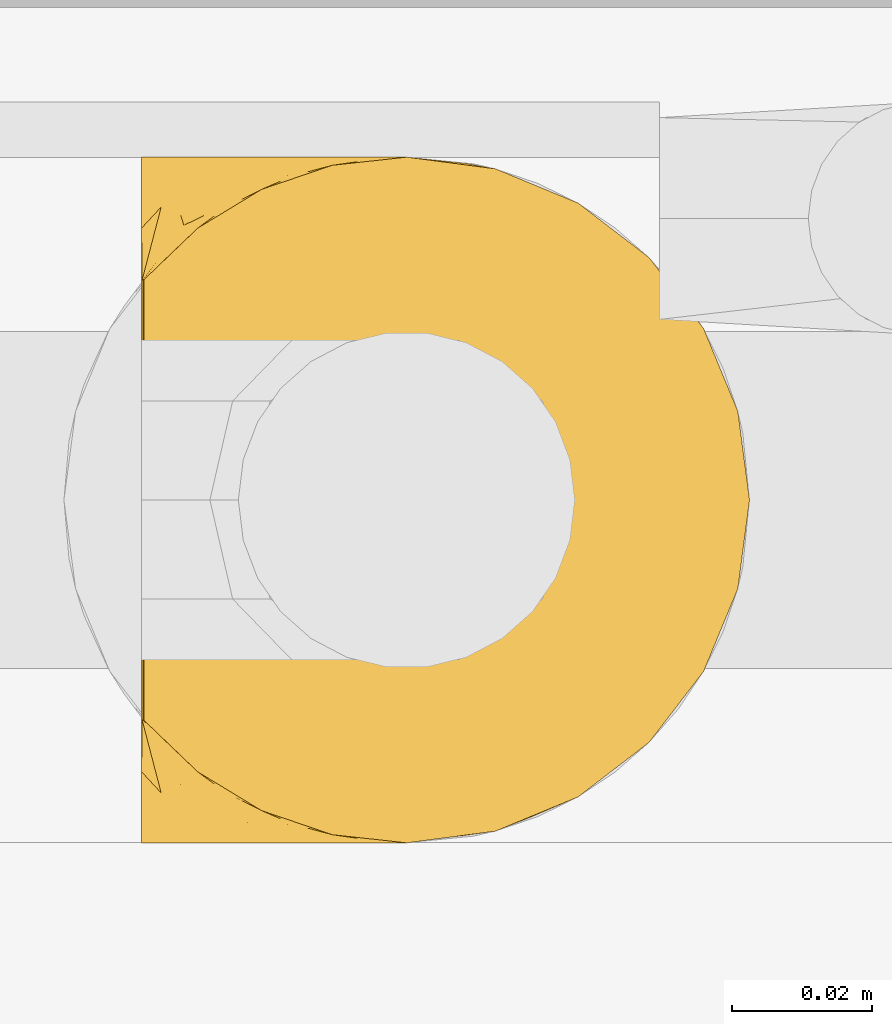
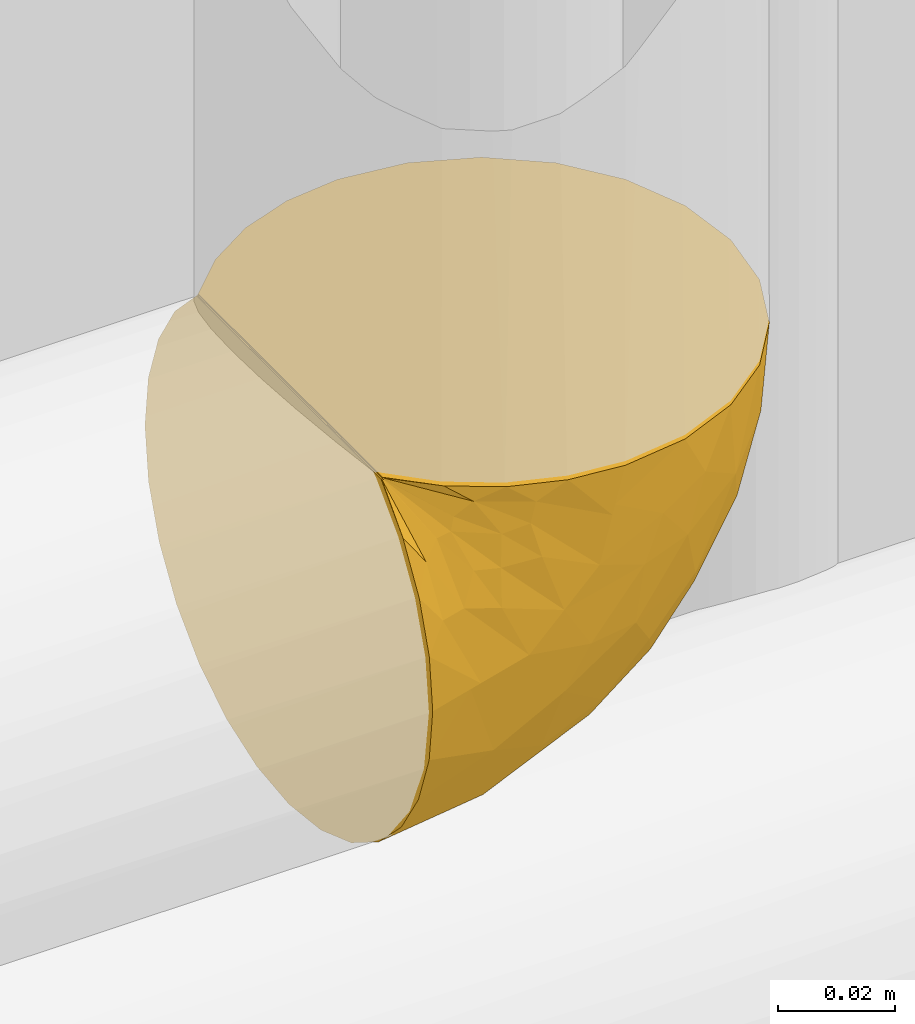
# One storey, part 60 of 94: 1 covering.
"""IFC2X3 building model written with IfcOpenShell, lengths in millimetres."""

from ifc_helpers import new_model, entity, si_unit, converted_unit, derived_unit, direction, frame, origin, place, context, subcontext, project, spatial, faceted_brep, material, element, save


model = new_model("IFC2X3")

# Units and contexts
model_context = context("Model", 3, precision=0.01, world=origin(), true_north=direction((6.123031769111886e-17, 1.0)))
body_context = subcontext(model_context, "Body", "Model", "MODEL_VIEW")
ifc_project = project(units=[si_unit("LENGTHUNIT", "METRE", prefix="MILLI"), si_unit("AREAUNIT", "SQUARE_METRE"), si_unit("VOLUMEUNIT", "CUBIC_METRE"), converted_unit("PLANEANGLEUNIT", "DEGREE", entity("IfcRatioMeasure", 0.017453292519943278), si_unit("PLANEANGLEUNIT", "RADIAN"), dimensions=[0, 0, 0, 0, 0, 0, 0]), si_unit("MASSUNIT", "GRAM", prefix="KILO"), derived_unit("MASSDENSITYUNIT", [(si_unit("MASSUNIT", "GRAM", prefix="KILO"), 1), (si_unit("LENGTHUNIT", "METRE"), -3)]), derived_unit("IONCONCENTRATIONUNIT", [(si_unit("MASSUNIT", "GRAM", prefix="KILO"), 1), (si_unit("LENGTHUNIT", "METRE"), -3)]), derived_unit("MOMENTOFINERTIAUNIT", [(si_unit("LENGTHUNIT", "METRE"), 4)]), si_unit("TIMEUNIT", "SECOND"), si_unit("FREQUENCYUNIT", "HERTZ"), si_unit("THERMODYNAMICTEMPERATUREUNIT", "DEGREE_CELSIUS"), derived_unit("THERMALTRANSMITTANCEUNIT", [(si_unit("MASSUNIT", "GRAM", prefix="KILO"), 1), (si_unit("THERMODYNAMICTEMPERATUREUNIT", "KELVIN"), -1), (si_unit("TIMEUNIT", "SECOND"), -3)]), derived_unit("THERMALCONDUCTANCEUNIT", [(si_unit("MASSUNIT", "GRAM", prefix="KILO"), 1), (si_unit("THERMODYNAMICTEMPERATUREUNIT", "KELVIN"), -1), (si_unit("TIMEUNIT", "SECOND"), -3), (si_unit("LENGTHUNIT", "METRE"), 1)]), derived_unit("VOLUMETRICFLOWRATEUNIT", [(si_unit("LENGTHUNIT", "METRE"), 3), (si_unit("TIMEUNIT", "SECOND"), -1)]), derived_unit("MASSFLOWRATEUNIT", [(si_unit("MASSUNIT", "GRAM", prefix="KILO"), 1), (si_unit("TIMEUNIT", "SECOND"), -1)]), derived_unit("ROTATIONALFREQUENCYUNIT", [(si_unit("TIMEUNIT", "SECOND"), -1)]), si_unit("ELECTRICCURRENTUNIT", "AMPERE"), si_unit("ELECTRICVOLTAGEUNIT", "VOLT"), si_unit("POWERUNIT", "WATT"), si_unit("FORCEUNIT", "NEWTON", prefix="KILO"), si_unit("ILLUMINANCEUNIT", "LUX"), si_unit("LUMINOUSFLUXUNIT", "LUMEN"), si_unit("LUMINOUSINTENSITYUNIT", "CANDELA"), derived_unit("USERDEFINED", [(si_unit("MASSUNIT", "GRAM", prefix="KILO"), -1), (si_unit("LENGTHUNIT", "METRE"), -2), (si_unit("TIMEUNIT", "SECOND"), 3), (si_unit("LUMINOUSFLUXUNIT", "LUMEN"), 1)]), derived_unit("USERDEFINED", [(si_unit("MASSUNIT", "GRAM", prefix="KILO"), 1), (si_unit("TIMEUNIT", "SECOND"), -3), (si_unit("LENGTHUNIT", "METRE"), 3), (si_unit("ELECTRICCURRENTUNIT", "AMPERE"), -2)]), derived_unit("SOUNDPOWERUNIT", [(si_unit("MASSUNIT", "GRAM", prefix="KILO"), 1), (si_unit("TIMEUNIT", "SECOND"), -3), (si_unit("LENGTHUNIT", "METRE"), 2)]), derived_unit("SOUNDPRESSUREUNIT", [(si_unit("MASSUNIT", "GRAM", prefix="KILO"), 1), (si_unit("LENGTHUNIT", "METRE"), -1), (si_unit("TIMEUNIT", "SECOND"), -2)]), derived_unit("LINEARVELOCITYUNIT", [(si_unit("LENGTHUNIT", "METRE"), 1), (si_unit("TIMEUNIT", "SECOND"), -1)]), si_unit("PRESSUREUNIT", "PASCAL"), derived_unit("USERDEFINED", [(si_unit("MASSUNIT", "GRAM", prefix="KILO"), 1), (si_unit("LENGTHUNIT", "METRE"), -2), (si_unit("TIMEUNIT", "SECOND"), -2)]), derived_unit("LINEARFORCEUNIT", [(si_unit("MASSUNIT", "GRAM", prefix="KILO"), 1), (si_unit("TIMEUNIT", "SECOND"), -2)]), derived_unit("PLANARFORCEUNIT", [(si_unit("MASSUNIT", "GRAM", prefix="KILO"), 1), (si_unit("LENGTHUNIT", "METRE"), -1), (si_unit("TIMEUNIT", "SECOND"), -2)]), derived_unit("SPECIFICHEATCAPACITYUNIT", [(si_unit("THERMODYNAMICTEMPERATUREUNIT", "KELVIN"), -1), (si_unit("LENGTHUNIT", "METRE"), 2), (si_unit("TIMEUNIT", "SECOND"), -2)]), derived_unit("HEATINGVALUEUNIT", [(si_unit("LENGTHUNIT", "METRE"), 2), (si_unit("TIMEUNIT", "SECOND"), -2)]), derived_unit("VAPORPERMEABILITYUNIT", [(si_unit("LENGTHUNIT", "METRE"), -1), (si_unit("TIMEUNIT", "SECOND"), 1)]), derived_unit("DYNAMICVISCOSITYUNIT", [(si_unit("MASSUNIT", "GRAM", prefix="KILO"), 1), (si_unit("TIMEUNIT", "SECOND"), -1), (si_unit("LENGTHUNIT", "METRE"), -1)]), derived_unit("THERMALEXPANSIONCOEFFICIENTUNIT", [(si_unit("THERMODYNAMICTEMPERATUREUNIT", "KELVIN"), -1)]), derived_unit("MODULUSOFELASTICITYUNIT", [(si_unit("MASSUNIT", "GRAM", prefix="KILO"), 1), (si_unit("LENGTHUNIT", "METRE"), -1), (si_unit("TIMEUNIT", "SECOND"), -2)]), derived_unit("ISOTHERMALMOISTURECAPACITYUNIT", [(si_unit("LENGTHUNIT", "METRE"), 3), (si_unit("MASSUNIT", "GRAM", prefix="KILO"), -1)]), derived_unit("MOISTUREDIFFUSIVITYUNIT", [(si_unit("TIMEUNIT", "SECOND"), -1), (si_unit("LENGTHUNIT", "METRE"), 2)])], contexts=[model_context])

# Site, building, storey
site_placement = place(None, origin())
site = spatial("IfcSite", under=ifc_project, at=site_placement, Name="Default", CompositionType="ELEMENT")
building_placement = place(site_placement, origin())
building = spatial("IfcBuilding", under=site, at=building_placement, CompositionType="ELEMENT")
storey_placement = place(building_placement, origin())
storey = spatial("IfcBuildingStorey", under=building, at=storey_placement, Name="Niveau 0", CompositionType="ELEMENT", Elevation=0.0)

# Covering
ifc_material = material(Name="Isolation - Laine minérale")
covering_placement = place(storey_placement, frame((-6048.767585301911, 9976.100352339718, 2499.2547277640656)))
element("IfcCovering", 1, at=covering_placement, inside=storey, material=ifc_material, Name="Isolation des canalisations:Laine minérale", ObjectType="Isolation des canalisations:Laine minérale", PredefinedType="INSULATION", context=body_context, shape_type="Brep", body=[
    faceted_brep([(1.5952722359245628, 95.02415814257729, 29.41213456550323), (1.5952722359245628, 89.1663101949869, 20.0932520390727), (1.5952722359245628, 81.38263886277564, 12.312548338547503), (1.5952722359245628, 72.06354573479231, 6.459227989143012), (1.5952722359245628, 61.67593083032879, 2.826140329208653), (1.5952722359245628, 50.74527223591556, 1.5952722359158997), (1.5952722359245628, 39.80290363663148, 2.828812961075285), (1.5952722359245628, 29.412134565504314, 6.466386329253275), (1.5952722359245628, 20.093252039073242, 12.324234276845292), (1.5952722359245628, 12.312548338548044, 20.10790560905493), (1.5952722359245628, 6.459227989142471, 29.426998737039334), (1.5952722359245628, 2.826140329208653, 39.814613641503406), (1.5952722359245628, 1.5952722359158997, 50.7452722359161), (1.5952722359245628, 2.765001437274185, 61.40435822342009), (1.5952722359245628, 6.216868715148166, 71.55257335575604), (1.5952722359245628, 11.785042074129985, 80.70896636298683), (1.5952722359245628, 19.19437336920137, 88.43165280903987), (1.5952722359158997, 21.638642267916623, 88.43165280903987), (1.5952722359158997, 23.415694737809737, 88.43165280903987), (1.5952722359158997, 25.192747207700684, 88.43165280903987), (1.5952722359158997, 26.692340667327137, 88.43165280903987), (1.5952722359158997, 28.191934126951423, 88.43165280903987), (1.5952722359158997, 31.1911210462, 88.43165280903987), (1.5952722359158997, 34.19030796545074, 88.43165280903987), (1.5952722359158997, 37.18949488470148, 88.43165280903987), (1.5952722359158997, 40.18868180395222, 88.43165280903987), (1.5952722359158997, 41.68827526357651, 88.43165280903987), (1.5952722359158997, 43.18786872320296, 88.43165280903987), (1.5952722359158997, 45.63213762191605, 88.43165280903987), (1.5952722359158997, 48.07640652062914, 88.43165280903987), (1.5952722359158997, 50.5206754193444, 88.43165280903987), (1.5952722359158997, 52.96494431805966, 88.43165280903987), (1.5952722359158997, 55.409213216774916, 88.43165280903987), (1.5952722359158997, 57.85348211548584, 88.43165280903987), (1.5952722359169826, 60.2977510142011, 88.43165280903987), (1.5952722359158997, 62.742019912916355, 88.43165280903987), (1.5952722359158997, 65.18628881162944, 88.43165280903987), (1.5952722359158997, 67.6305577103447, 88.43165280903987), (1.5952722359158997, 70.0748266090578, 88.43165280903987), (1.5952722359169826, 72.51909550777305, 88.43165280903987), (1.5952722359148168, 74.96336440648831, 88.43165280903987), (1.5952722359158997, 77.4076333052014, 88.43165280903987), (1.5952722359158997, 79.85190220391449, 88.43165280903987), (1.5952722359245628, 82.29617110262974, 88.43165280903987), (1.5952722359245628, 89.71827412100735, 80.69235262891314), (1.5952722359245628, 95.28368576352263, 71.53113811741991), (1.5952722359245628, 98.73008326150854, 61.38390047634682), (1.5952722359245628, 99.89527223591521, 50.74527223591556), (1.5952722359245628, 98.66173151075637, 39.80290363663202), (9.641963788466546, 11.777056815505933, 88.74527223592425), (18.798688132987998, 6.211862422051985, 88.74527223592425), (28.94385431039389, 2.7632985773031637, 88.74527223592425), (39.59527223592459, 1.5952722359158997, 88.74527223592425), (52.31622830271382, 3.270017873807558, 88.74527223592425), (64.17027223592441, 8.18012363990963, 88.74527223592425), (74.34957053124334, 15.990973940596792, 88.74527223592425), (82.16042083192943, 26.170272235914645, 88.74527223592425), (87.07052659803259, 38.02431616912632, 88.74527223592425), (88.74527223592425, 50.74527223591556, 88.74527223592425), (87.07052659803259, 63.46622830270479, 88.74527223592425), (82.16042083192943, 75.3202722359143, 88.74527223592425), (74.34957053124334, 85.49957053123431, 88.74527223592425), (64.17027223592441, 93.31042083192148, 88.74527223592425), (52.31622830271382, 98.22052659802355, 88.74527223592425), (39.59527223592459, 99.89527223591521, 88.74527223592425), (28.94385431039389, 98.72724589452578, 88.74527223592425), (18.798688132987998, 95.27868204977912, 88.74527223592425), (9.641963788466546, 89.71348765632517, 88.74527223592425), (1.908891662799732, 82.29617110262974, 88.74527223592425), (1.908891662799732, 79.85190220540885, 88.74527223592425), (1.908891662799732, 78.3523087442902, 88.74527223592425), (1.9088916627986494, 76.3803775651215, 88.74527223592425), (1.908891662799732, 74.40844638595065, 88.74527223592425), (1.908891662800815, 72.43651520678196, 88.74527223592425), (1.908891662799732, 70.46458402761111, 88.74527223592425), (1.908891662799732, 68.49265284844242, 88.74527223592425), (1.908891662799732, 66.52072166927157, 88.74527223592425), (1.908891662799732, 64.54879049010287, 88.74527223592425), (1.908891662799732, 62.57685931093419, 88.74527223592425), (1.908891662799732, 60.6049281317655, 88.74527223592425), (1.908891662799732, 58.632996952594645, 88.74527223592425), (1.908891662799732, 56.661065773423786, 88.74527223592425), (1.908891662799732, 54.6891345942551, 88.74527223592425), (1.908891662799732, 52.71720341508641, 88.74527223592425), (1.908891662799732, 50.74527223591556, 88.74527223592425), (1.908891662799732, 48.773341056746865, 88.74527223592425), (1.9088916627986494, 46.80140987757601, 88.74527223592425), (1.908891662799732, 44.82947869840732, 88.74527223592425), (1.908891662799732, 42.85754751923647, 88.74527223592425), (1.9088916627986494, 40.88561634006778, 88.74527223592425), (1.908891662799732, 38.913685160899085, 88.74527223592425), (1.908891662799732, 36.94175398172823, 88.74527223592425), (1.908891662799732, 34.96982280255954, 88.74527223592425), (1.908891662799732, 31.97063588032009, 88.74527223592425), (1.908891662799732, 28.971448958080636, 88.74527223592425), (1.908891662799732, 26.5271800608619, 88.74527223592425), (1.9088916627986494, 24.082911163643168, 88.74527223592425), (1.908891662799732, 21.638642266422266, 88.74527223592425), (1.908891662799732, 19.19437336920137, 88.74527223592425), (1.8241875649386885, 53.75333970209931, 88.53090125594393), (1.815624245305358, 51.832765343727, 88.52210831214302), (1.8147227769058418, 61.47290163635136, 88.52122178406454), (1.8212241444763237, 63.562825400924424, 88.5277799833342), (1.8331787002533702, 48.00102702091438, 88.54092532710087), (1.828016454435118, 77.2499939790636, 88.5350645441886), (1.7792781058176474, 80.69913834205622, 88.49130573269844), (1.8114926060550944, 42.43807145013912, 88.51810292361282), (1.8170346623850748, 22.860776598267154, 88.52350981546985), (1.81898896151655, 24.70021643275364, 88.52548149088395), (1.8098308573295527, 71.3700895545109, 88.51653277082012), (1.820221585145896, 73.40383885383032, 88.52674320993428), (1.796462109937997, 44.410002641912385, 88.5046900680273), (1.8230063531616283, 37.92771907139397, 88.52964682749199), (1.8262968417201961, 39.81308540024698, 88.5331760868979), (1.8091041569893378, 35.95578792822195, 88.51585328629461), (1.8225274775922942, 49.75930651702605, 88.52914218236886), (1.817034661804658, 79.10210557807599, 88.52350981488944), (1.8194169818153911, 21.02757498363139, 88.52591800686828), (1.8294378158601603, 55.67510065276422, 88.5366490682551), (1.8301744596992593, 67.50668767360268, 88.5374788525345), (1.82588831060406, 65.61454699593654, 88.5327319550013), (1.8272900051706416, 34.104580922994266, 88.53426299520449), (1.8267767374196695, 57.55217518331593, 88.53370000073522), (1.8278964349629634, 75.39441218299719, 88.53493173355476), (1.8170346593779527, 82.29617110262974, 88.52350981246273), (1.747915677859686, 82.29617110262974, 88.49487979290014), (1.6787966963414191, 82.29617110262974, 88.46624977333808), (1.8170346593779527, 19.19437336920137, 88.52350981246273), (1.8456646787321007, 19.19437336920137, 88.59262879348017), (1.8742946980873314, 19.19437336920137, 88.66174777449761), (1.802653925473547, 32.212157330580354, 88.51000647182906), (1.8237404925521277, 69.4355922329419, 88.5304248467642), (1.8159875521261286, 46.248287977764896, 88.52246762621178), (1.8182226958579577, 59.49061335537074, 88.52470424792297), (1.7977740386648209, 29.41925201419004, 88.50579329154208), (1.8208977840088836, 27.44213716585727, 88.52744143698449), (1.8742946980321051, 82.29617110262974, 88.66174777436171), (1.845664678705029, 82.29617110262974, 88.59262879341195), (1.6787966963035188, 19.19437336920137, 88.46624977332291), (1.7479156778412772, 19.19437336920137, 88.49487979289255), (23.495219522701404, 4.210283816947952, 85.22080157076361), (13.747756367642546, 8.744179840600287, 85.93611072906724), (22.409779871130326, 4.210283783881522, 81.07807843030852), (10.562522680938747, 9.955583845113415, 83.13289242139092), (37.049754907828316, 1.5952722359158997, 79.24527223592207), (37.59734391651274, 1.5952722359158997, 81.28890223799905), (20.595272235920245, 1.5952722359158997, 55.83630689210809), (16.020149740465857, 2.93549782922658, 66.39553001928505), (9.261677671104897, 4.213452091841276, 67.94040403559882), (34.50423757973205, 1.5952722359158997, 69.7452722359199), (9.667897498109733, 9.405305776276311, 80.67378389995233), (7.20291242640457, 9.963487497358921, 79.7889209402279), (23.94474674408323, 2.9356418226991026, 74.3210935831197), (5.119390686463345, 4.213452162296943, 66.85470593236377), (4.402893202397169, 8.750654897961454, 76.6033636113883), (17.541506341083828, 5.690627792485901, 79.6491193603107), (9.051642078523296, 1.5952722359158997, 52.74320051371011), (11.095272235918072, 1.5952722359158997, 53.290789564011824), (16.72885944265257, 4.482619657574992, 73.61168493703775), (27.549754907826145, 1.5952722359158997, 62.790789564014), (12.071559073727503, 5.766057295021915, 73.87988529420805), (47.62395095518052, 2.6117250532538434, 75.32913676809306), (44.00144112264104, 2.657531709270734, 65.9107418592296), (58.899698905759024, 11.131578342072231, 53.84761415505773), (72.66771487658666, 20.824647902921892, 59.13651173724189), (67.20155656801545, 11.7519547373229, 71.16612245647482), (54.07984229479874, 5.336592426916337, 67.00545271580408), (57.54110754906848, 5.33659286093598, 78.88051287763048), (72.10110329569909, 50.74527223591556, 37.51978749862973), (84.47984763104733, 50.74527223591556, 61.81444117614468), (80.24801351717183, 40.339739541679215, 53.87520138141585), (13.851436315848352, 9.12424327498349, 25.784943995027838), (15.165285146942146, 4.351045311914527, 36.244182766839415), (60.7776584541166, 32.64695426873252, 29.562882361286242), (55.38583609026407, 23.768909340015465, 30.770681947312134), (43.89737524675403, 35.61531809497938, 15.292222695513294), (86.12648113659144, 41.696133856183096, 71.31385843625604), (73.23168363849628, 30.50981773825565, 47.24102741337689), (64.74738573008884, 21.748430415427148, 43.50389303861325), (77.40373146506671, 20.824647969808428, 75.289852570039), (82.14716981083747, 31.9363827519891, 67.10273039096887), (52.829115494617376, 15.984346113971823, 37.099200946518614), (48.878965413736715, 9.509703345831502, 44.515176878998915), (40.607220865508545, 11.405769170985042, 33.70477633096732), (28.76995319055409, 3.723532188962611, 44.051694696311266), (27.448445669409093, 9.124242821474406, 30.044081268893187), (19.800365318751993, 15.984347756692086, 18.312338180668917), (28.52610329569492, 50.74527223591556, 5.860696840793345), (22.71562192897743, 34.50535109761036, 7.04140620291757), (42.31748570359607, 18.53593481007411, 25.61446965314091), (33.68382770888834, 24.588194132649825, 15.886915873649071), (16.806973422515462, 24.58819389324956, 10.600409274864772), (71.07858054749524, 39.07585882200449, 38.50378416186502), (60.332491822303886, 42.346184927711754, 25.34518062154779), (33.37332146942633, 2.563252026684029, 53.16350413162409), (52.82075697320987, 50.74527223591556, 18.23944117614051), (43.46542968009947, 4.72244931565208, 52.69469876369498), (79.2001746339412, 69.55416102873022, 58.175892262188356), (86.24488809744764, 59.5851078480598, 71.70091272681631), (80.83807017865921, 59.865425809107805, 54.574333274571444), (72.52816019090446, 66.13789702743, 42.49805076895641), (83.87397883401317, 69.55416221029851, 75.06235489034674), (35.798660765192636, 85.49332197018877, 24.525141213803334), (48.02046276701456, 78.98858976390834, 25.78634265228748), (33.68736739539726, 76.88743080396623, 15.878231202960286), (52.83844921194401, 85.49294527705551, 37.089792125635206), (59.75598123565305, 78.28666517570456, 35.71336208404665), (15.17001623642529, 97.13479117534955, 36.23150879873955), (45.55141709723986, 98.95303587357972, 70.53804152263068), (34.50423757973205, 99.89527223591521, 69.7452722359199), (37.049754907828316, 99.89527223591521, 79.24527223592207), (22.71467774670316, 66.97173870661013, 7.036299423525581), (76.07714087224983, 80.665896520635, 69.24086116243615), (27.45465165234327, 92.35692696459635, 30.030512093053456), (13.854008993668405, 92.35692651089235, 25.770245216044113), (68.47065883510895, 89.73858944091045, 76.87540408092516), (56.45843349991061, 96.15395178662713, 74.00473445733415), (68.08854506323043, 79.62483877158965, 48.41047025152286), (64.29272071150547, 89.7385902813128, 62.62553049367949), (66.01125638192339, 59.508159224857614, 31.220776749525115), (60.78019542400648, 68.83452868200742, 29.56034539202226), (48.01911236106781, 99.01263503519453, 79.82666983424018), (16.809109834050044, 76.88743104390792, 10.591274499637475), (43.900853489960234, 65.85652255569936, 15.287247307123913), (19.80368192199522, 85.49294363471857, 18.299506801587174), (28.786726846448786, 97.76388503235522, 44.049870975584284), (20.595272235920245, 99.89527223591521, 55.83630689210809), (35.485066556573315, 98.78930951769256, 54.23536248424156), (27.549754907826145, 99.89527223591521, 62.790789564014), (9.051642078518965, 99.89527223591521, 52.74320051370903), (11.095272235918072, 99.89527223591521, 53.290789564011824), (53.16291239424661, 91.50386042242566, 48.41211537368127), (52.05308452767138, 96.4268312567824, 64.14304703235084), (41.401037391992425, 93.14991945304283, 40.10640265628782), (40.721221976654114, 99.08337182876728, 62.89073418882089), (60.91677547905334, 86.09107557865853, 47.67277833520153), (45.94061161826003, 96.67816905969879, 55.38955823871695), (22.409778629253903, 97.28026029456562, 81.0780784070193), (16.46425424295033, 95.72662397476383, 78.26566497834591), (23.943292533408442, 98.55465842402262, 74.32072912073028), (23.495218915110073, 97.28026045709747, 85.22080145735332), (13.74775580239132, 92.74636428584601, 85.93611080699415), (10.564867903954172, 91.53641117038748, 83.13257230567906), (7.656624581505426, 90.11275627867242, 82.68198005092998), (16.72348133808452, 97.0051951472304, 73.6170638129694), (7.2165179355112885, 91.54965419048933, 79.75777141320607), (9.263185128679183, 97.2842704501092, 67.91845358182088), (5.119593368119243, 97.28427059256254, 66.83334757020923), (4.405878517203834, 92.75147496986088, 76.58449008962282), (16.01862728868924, 98.55441347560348, 66.3977076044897), (10.692146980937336, 95.80583125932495, 72.78382599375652)], [[[0, 1, 2, 3, 4, 5, 6, 7, 8, 9, 10, 11, 12, 13, 14, 15, 16, 17, 18, 19, 20, 21, 22, 23, 24, 25, 26, 27, 28, 29, 30, 31, 32, 33, 34, 35, 36, 37, 38, 39, 40, 41, 42, 43, 44, 45, 46, 47, 48]], [[49, 50, 51, 52, 53, 54, 55, 56, 57, 58, 59, 60, 61, 62, 63, 64, 65, 66, 67, 68, 69, 70, 71, 72, 73, 74, 75, 76, 77, 78, 79, 80, 81, 82, 83, 84, 85, 86, 87, 88, 89, 90, 91, 92, 93, 94, 95, 96, 97, 98]], [[99, 100, 83]], [[101, 102, 35]], [[85, 103, 86]], [[71, 70, 104]], [[105, 69, 68]], [[27, 26, 106]], [[18, 107, 108]], [[109, 73, 110]], [[28, 27, 111]], [[25, 112, 113]], [[108, 96, 95]], [[114, 92, 91]], [[103, 85, 115]], [[96, 107, 97]], [[116, 70, 69]], [[107, 17, 117]], [[78, 102, 101]], [[99, 118, 32]], [[76, 119, 120]], [[121, 92, 114]], [[112, 90, 113]], [[88, 111, 106]], [[40, 39, 110]], [[107, 96, 108]], [[32, 118, 122]], [[91, 90, 112]], [[37, 120, 119]], [[84, 115, 85]], [[69, 105, 116]], [[71, 123, 72]], [[105, 124, 125, 126, 43]], [[117, 17, 16]], [[41, 116, 42]], [[117, 127, 128, 129, 98]], [[110, 123, 40]], [[42, 116, 105]], [[121, 23, 130]], [[24, 114, 112]], [[114, 24, 23]], [[104, 123, 71]], [[91, 112, 114]], [[104, 116, 41]], [[24, 112, 25]], [[110, 72, 123]], [[36, 120, 37]], [[40, 123, 41]], [[74, 73, 109]], [[131, 75, 74]], [[119, 131, 37]], [[109, 110, 39]], [[109, 39, 38]], [[73, 72, 110]], [[123, 104, 41]], [[116, 104, 70]], [[26, 25, 113]], [[113, 89, 106]], [[87, 86, 132]], [[113, 106, 26]], [[76, 75, 119]], [[132, 111, 87]], [[106, 111, 27]], [[132, 28, 111]], [[87, 111, 88]], [[88, 106, 89]], [[113, 90, 89]], [[131, 119, 75]], [[38, 37, 131]], [[120, 36, 102]], [[131, 109, 38]], [[109, 131, 74]], [[78, 77, 102]], [[77, 120, 102]], [[77, 76, 120]], [[122, 80, 133]], [[36, 35, 102]], [[33, 122, 133]], [[79, 78, 101]], [[34, 101, 35]], [[132, 29, 28]], [[80, 79, 133]], [[29, 103, 115]], [[30, 29, 115]], [[86, 103, 132]], [[100, 115, 84]], [[31, 30, 100]], [[115, 100, 30]], [[32, 31, 99]], [[118, 81, 122]], [[100, 84, 83]], [[99, 82, 118]], [[81, 118, 82]], [[33, 32, 122]], [[82, 99, 83]], [[100, 99, 31]], [[34, 33, 133]], [[122, 81, 80]], [[133, 101, 34]], [[101, 133, 79]], [[134, 94, 93]], [[23, 121, 114]], [[132, 103, 29]], [[121, 93, 92]], [[93, 121, 130]], [[97, 107, 117]], [[108, 20, 19, 18]], [[21, 135, 134]], [[20, 135, 21]], [[134, 135, 94]], [[108, 95, 135]], [[108, 135, 20]], [[135, 95, 94]], [[134, 22, 21]], [[130, 22, 134]], [[42, 105, 43]], [[105, 68, 136, 137, 124]], [[97, 117, 98]], [[117, 16, 138, 139, 127]], [[18, 17, 107]], [[93, 130, 134]], [[22, 130, 23]], [[140, 141, 142]], [[143, 129, 128, 127]], [[51, 144, 145, 52]], [[146, 147, 148]], [[142, 149, 144]], [[150, 127, 151]], [[50, 140, 51]], [[142, 152, 149]], [[51, 140, 144]], [[129, 143, 141]], [[14, 13, 153]], [[148, 151, 154]], [[155, 141, 143]], [[151, 138, 154]], [[14, 153, 154]], [[16, 15, 138]], [[13, 12, 156, 157]], [[152, 155, 158]], [[159, 158, 147]], [[157, 148, 153]], [[14, 154, 15]], [[49, 98, 129]], [[49, 129, 141]], [[141, 50, 49]], [[160, 148, 147]], [[146, 148, 157]], [[138, 15, 154]], [[150, 158, 155]], [[151, 127, 139, 138]], [[141, 140, 50]], [[144, 140, 142]], [[157, 153, 13]], [[154, 153, 148]], [[149, 152, 159]], [[160, 147, 158]], [[147, 146, 159]], [[155, 152, 142]], [[159, 152, 158]], [[127, 150, 143]], [[160, 150, 151]], [[150, 160, 158]], [[148, 160, 151]], [[141, 155, 142]], [[155, 143, 150]], [[156, 12, 11]], [[161, 149, 162]], [[163, 164, 165]], [[166, 167, 161]], [[168, 169, 170]], [[54, 165, 55]], [[171, 172, 10]], [[173, 174, 175]], [[57, 176, 58]], [[173, 177, 178]], [[179, 56, 55]], [[54, 167, 165]], [[170, 180, 177]], [[56, 179, 180]], [[167, 54, 53]], [[181, 182, 183]], [[184, 146, 172]], [[172, 185, 184]], [[186, 185, 171]], [[186, 9, 8]], [[172, 146, 157, 156]], [[172, 11, 10]], [[173, 178, 174]], [[6, 187, 188]], [[189, 186, 190]], [[191, 186, 8]], [[175, 190, 188]], [[168, 192, 193]], [[189, 190, 174]], [[56, 180, 57]], [[8, 7, 191]], [[188, 7, 6]], [[6, 5, 187]], [[190, 191, 188]], [[159, 194, 162]], [[175, 187, 195]], [[177, 180, 164]], [[10, 9, 171]], [[176, 180, 170]], [[156, 11, 172]], [[163, 165, 166]], [[179, 165, 164]], [[53, 52, 145]], [[185, 189, 183]], [[184, 196, 194]], [[188, 191, 7]], [[186, 191, 190]], [[186, 171, 9]], [[172, 171, 185]], [[187, 175, 188]], [[193, 175, 195]], [[196, 163, 166]], [[163, 181, 178]], [[162, 166, 161]], [[184, 185, 183]], [[178, 177, 164]], [[177, 192, 170]], [[177, 173, 192]], [[176, 170, 169]], [[58, 176, 169]], [[57, 180, 176]], [[193, 192, 173]], [[168, 170, 192]], [[175, 193, 173]], [[168, 193, 195]], [[163, 178, 164]], [[184, 194, 146]], [[178, 181, 174]], [[189, 174, 181]], [[175, 174, 190]], [[183, 189, 181]], [[186, 189, 185]], [[182, 181, 163]], [[183, 182, 184]], [[163, 196, 182]], [[184, 182, 196]], [[165, 179, 55]], [[180, 179, 164]], [[161, 53, 145]], [[165, 167, 166]], [[53, 161, 167]], [[161, 145, 144, 149]], [[159, 162, 149]], [[196, 166, 162]], [[162, 194, 196]], [[146, 194, 159]], [[197, 198, 199]], [[58, 169, 198]], [[197, 199, 200]], [[198, 197, 201]], [[202, 203, 204]], [[60, 59, 201]], [[205, 206, 203]], [[0, 48, 207]], [[208, 209, 210]], [[187, 4, 211]], [[201, 212, 60]], [[213, 214, 207]], [[61, 215, 62]], [[62, 215, 216]], [[3, 211, 4]], [[217, 218, 212]], [[219, 220, 200]], [[216, 208, 221]], [[3, 2, 222]], [[62, 216, 63]], [[61, 60, 212]], [[211, 3, 222]], [[5, 4, 187]], [[217, 197, 200]], [[203, 223, 204]], [[2, 1, 224]], [[225, 213, 207]], [[204, 222, 224]], [[1, 0, 214]], [[204, 224, 202]], [[207, 226, 225]], [[227, 226, 228]], [[223, 211, 204]], [[214, 224, 1]], [[202, 224, 213]], [[48, 47, 229]], [[207, 229, 230, 226]], [[211, 223, 187]], [[218, 231, 232]], [[48, 229, 207]], [[205, 233, 231]], [[233, 213, 225]], [[217, 212, 197]], [[215, 212, 218]], [[228, 234, 227]], [[233, 205, 202]], [[208, 234, 209]], [[63, 221, 64]], [[235, 205, 231]], [[207, 214, 0]], [[224, 214, 213]], [[224, 222, 2]], [[211, 222, 204]], [[219, 223, 220]], [[187, 223, 195]], [[227, 233, 225]], [[234, 228, 209]], [[231, 233, 236]], [[221, 208, 210]], [[232, 208, 216]], [[64, 221, 210]], [[216, 221, 63]], [[233, 202, 213]], [[203, 202, 205]], [[205, 235, 206]], [[223, 203, 220]], [[200, 206, 217]], [[220, 203, 206]], [[232, 231, 236]], [[235, 218, 217]], [[212, 215, 61]], [[216, 215, 218]], [[218, 232, 216]], [[234, 232, 236]], [[232, 234, 208]], [[234, 236, 227]], [[233, 227, 236]], [[226, 227, 225]], [[198, 201, 59]], [[212, 201, 197]], [[58, 198, 59]], [[198, 169, 199]], [[169, 168, 199]], [[219, 200, 199]], [[219, 199, 168]], [[200, 220, 206]], [[168, 195, 219]], [[223, 219, 195]], [[218, 235, 231]], [[206, 235, 217]], [[65, 64, 210]], [[209, 237, 210]], [[238, 237, 239]], [[66, 240, 241]], [[242, 136, 241]], [[243, 137, 242]], [[243, 244, 245]], [[65, 240, 66]], [[136, 68, 67]], [[136, 67, 241]], [[246, 226, 230]], [[66, 241, 67]], [[210, 237, 240]], [[45, 247, 46]], [[209, 239, 237]], [[246, 247, 248]], [[46, 247, 230]], [[249, 250, 244]], [[239, 228, 244]], [[226, 246, 249]], [[250, 248, 245]], [[44, 43, 126]], [[237, 242, 241]], [[248, 45, 44]], [[44, 126, 248]], [[46, 230, 229, 47]], [[245, 126, 125]], [[126, 245, 248]], [[243, 124, 137]], [[210, 240, 65]], [[241, 240, 237]], [[248, 247, 45]], [[230, 247, 246]], [[226, 249, 228]], [[238, 239, 244]], [[239, 209, 228]], [[250, 249, 246]], [[228, 249, 244]], [[243, 242, 238]], [[136, 242, 137]], [[124, 243, 125]], [[125, 243, 245]], [[243, 238, 244]], [[237, 238, 242]], [[248, 250, 246]], [[244, 250, 245]]]),
])

save(model, "model.ifc")
